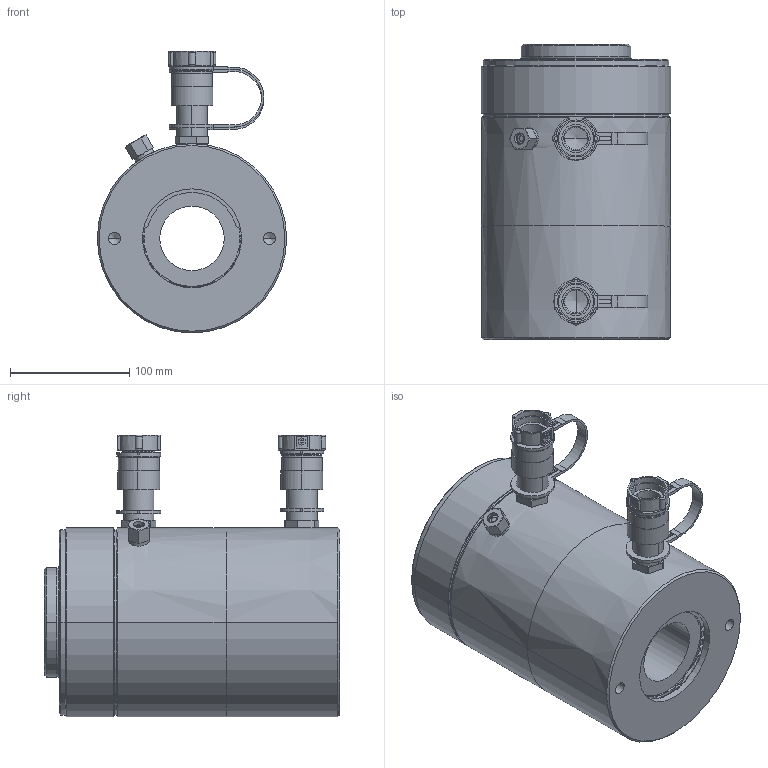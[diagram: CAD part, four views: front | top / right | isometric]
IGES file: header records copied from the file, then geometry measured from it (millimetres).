
Start section:  PTC IGES file: rrh603swp_sw0002.igs
Global section: file name: rrh603swp_sw0002.igs; native system: Creo Parametric by PTC Inc.; preprocessor: 2015290; author: ryan.rice; organization: Unknown; date: 20170613.142342; units: inch
Bounding box: 158.62 x 247.65 x 236.3 mm (x, y, z)
Surface area: 269675 mm2 (no closed solid volume)
Topology: 0 solids, 24 shells, 414 faces, 1165 edges, 776 vertices
Faces by surface type: revolution 240, bspline 174
